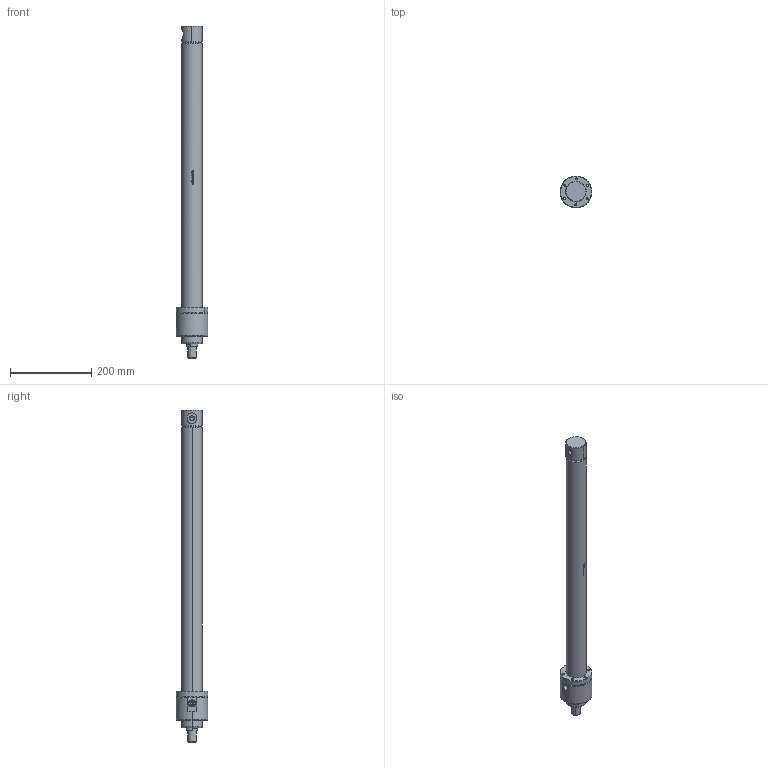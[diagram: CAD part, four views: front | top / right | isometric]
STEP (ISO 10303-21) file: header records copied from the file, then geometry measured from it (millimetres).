
FILE_DESCRIPTION (( 'STEP AP214' ), '1' );
FILE_NAME ('40_28_600_WEB.STEP', '2020-08-05T10:30:56', ( '' ), ( '' ), 'SwSTEP 2.0', 'SolidWorks 2018', '' );
FILE_SCHEMA (( 'AUTOMOTIVE_DESIGN' ));
Length unit declared in the file: millimetre
Products named in the file (11): 40_烰_KAPAK; KASTAS-K84-32_8X40X3_4; 40_25_HON_BORU_WEB; KASTAS-K32-28X38X6; 40_28_600_WEB; FLANS; KASTAS-K06-28X36_6X5_3X7; TYAK_40_50; Assem1; Kastas Seals-K68-28X32X9_7; 28_K_MIL_WEB
Assembly tree (11 placements, depth 3):
  40_28_600_WEB
    40_25_HON_BORU_WEB
    28_K_MIL_WEB
    Assem1
      40_烰_KAPAK
      KASTAS-K06-28X36_6X5_3X7
      KASTAS-K32-28X38X6
      Kastas Seals-K68-28X32X9_7  x2
      KASTAS-K84-32_8X40X3_4
    FLANS
    TYAK_40_50
Bounding box: 78 x 78 x 818 mm (x, y, z)
Volume: 854009.5 mm3; surface area: 275615.1 mm2
Topology: 10 solids, 10 shells, 483 faces, 1177 edges, 751 vertices
Faces by surface type: plane 143, cylinder 130, cone 103, bspline 103, torus 4
Entity records: 21002 total; most frequent: CARTESIAN_POINT 8059, ORIENTED_EDGE 2258, DIRECTION 2058, EDGE_CURVE 1129, AXIS2_PLACEMENT_3D 795, VERTEX_POINT 720, EDGE_LOOP 541, VECTOR 468
